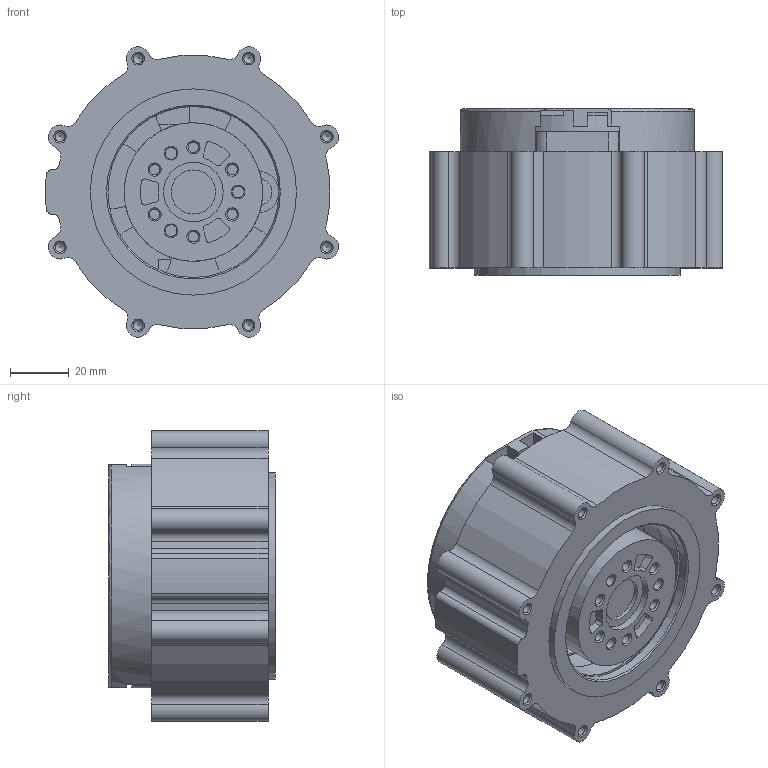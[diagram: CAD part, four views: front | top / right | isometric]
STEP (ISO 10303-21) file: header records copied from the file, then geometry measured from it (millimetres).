
FILE_DESCRIPTION(/* description */ ('STEP AP242 Edition 2','CAx-IF Rec.Pracs.---Representation and Presentation of Product Manufacturing Information (PMI)---4.0---2014-10-13','CAx-IF Rec.Pracs.---3D Tessellated Geometry---0.4---2014-09-14','2;1','CAx-IF Rec.Pracs.---User Defined Attributes---1.5---2016-08-15'),/* implementation_level */ '2;1');
FILE_NAME(/* name */ 'Assy_ForMFG - L_Shdr_Roll_RS03',/* time_stamp */ '2026-05-15T19:56:53Z',/* author */ (''),/* organization */ (''),/* preprocessor_version */ 'ST-DEVELOPER v20',/* originating_system */ 'ONSHAPE BY PTC INC, 1.215',/* authorisation */ ' ');
FILE_SCHEMA (('AP242_MANAGED_MODEL_BASED_3D_ENGINEERING_MIM_LF { 1 0 10303 442 3 1 4 }'));
Length unit declared in the file: metre
Products named in the file (1): L_Shdr_Roll_RS03
Bounding box: 99.48 x 56.6 x 98.53 mm (x, y, z)
Volume: 181195.6 mm3; surface area: 80966.4 mm2
Topology: 1 solids, 1 shells, 404 faces, 1124 edges, 753 vertices
Faces by surface type: cylinder 198, plane 141, cone 61, torus 2, bspline 2
Full cylindrical faces by diameter (mm): 1.6 x4, 2.4 x4, 2.5 x3, 3.3 x16, 3.5 x6, 4 x7, 4.2 x8, 6 x3, 15 x1, 19 x1, 20.2 x1, 47 x1, 58 x3, 59 x1, 59.94 x1, 62.8 x1, 63 x2, 64 x1, 70 x1, 89.6 x1
Entity records: 11778 total; most frequent: DIRECTION 2180, CARTESIAN_POINT 2069, ORIENTED_EDGE 1768, AXIS2_PLACEMENT_3D 905, EDGE_CURVE 884, VERTEX_POINT 664, FACE_BOUND 610, EDGE_LOOP 587
